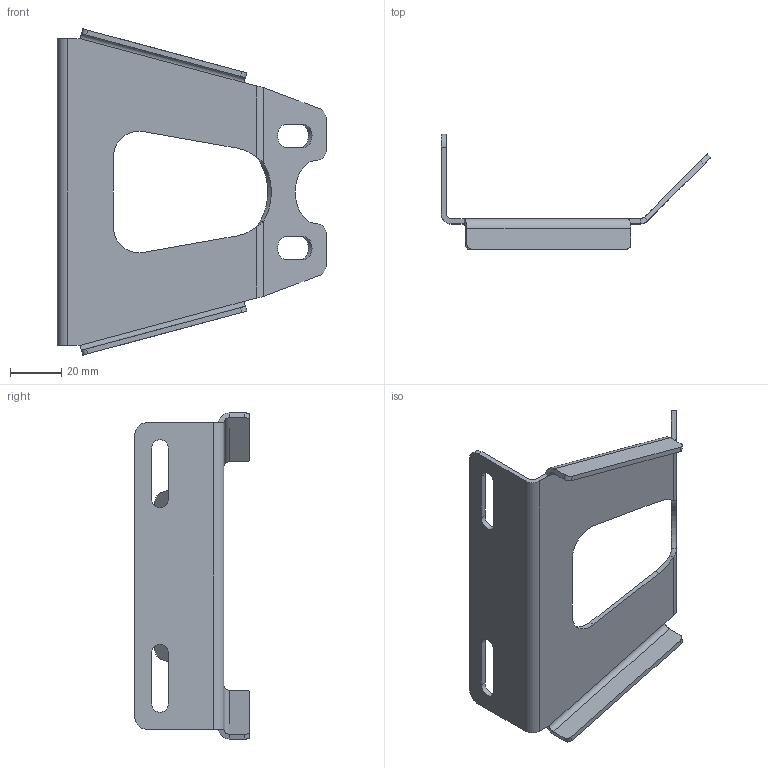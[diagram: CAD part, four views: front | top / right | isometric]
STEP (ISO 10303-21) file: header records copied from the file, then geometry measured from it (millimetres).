
FILE_DESCRIPTION(/* description */ ('SUPPORT SOUPAPE DE DECHARGE','CAx-IF Rec.Pracs.---Representation and Presentation of Product Manufacturing Information (PMI)---4.0---2014-10-13'),/* implementation_level */ '2;1');
FILE_NAME(/* name */ 'vv180507-A.stp',/* time_stamp */ '2025-09-29T11:52:46+02:00',/* author */ ('RIVIERE C.'),/* organization */ (''),/* preprocessor_version */ 'ST-DEVELOPER v20',/* originating_system */ 'Autodesk Inventor 2025',/* authorisation */ '');
FILE_SCHEMA (('AP242_MANAGED_MODEL_BASED_3D_ENGINEERING_MIM_LF { 1 0 10303 442 1 1 4 }'));
Length unit declared in the file: millimetre
Products named in the file (1): VICTOR.V.18.05.07
Bounding box: 105.58 x 45 x 127.73 mm (x, y, z)
Volume: 25782 mm3; surface area: 27679.7 mm2
Topology: 1 solids, 1 shells, 78 faces, 210 edges, 132 vertices
Faces by surface type: plane 40, cylinder 34, bspline 4
Entity records: 3199 total; most frequent: CARTESIAN_POINT 732, DIRECTION 464, ORIENTED_EDGE 420, EDGE_CURVE 210, STYLED_ITEM 176, AXIS2_PLACEMENT_3D 161, LINE 142, VECTOR 142
